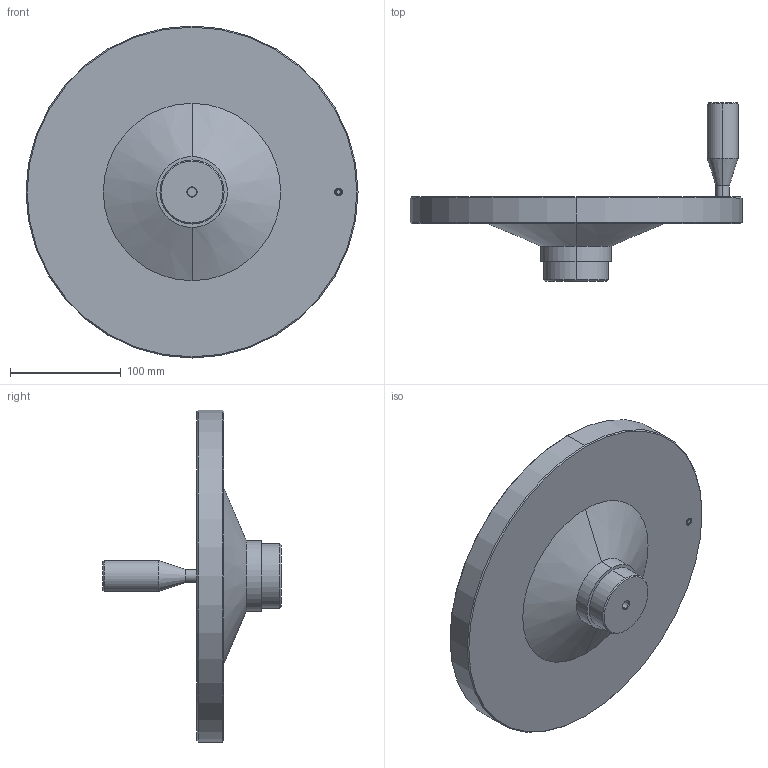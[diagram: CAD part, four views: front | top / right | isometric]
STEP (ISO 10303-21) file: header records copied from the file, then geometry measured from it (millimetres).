
FILE_DESCRIPTION (( 'STEP AP203' ), '1' );
FILE_NAME ('77640.W0300.step', '2019-08-13T15:13:55', ( '' ), ( '' ), 'SwSTEP 2.0', 'SolidWorks 2017', '' );
FILE_SCHEMA (( 'CONFIG_CONTROL_DESIGN' ));
Length unit declared in the file: millimetre
Products named in the file (3): Part2_77640.W0300; 77640.W0300; Part1_77640.W0300
Assembly tree (2 placements, depth 2):
  77640.W0300
    Part1_77640.W0300
    Part2_77640.W0300
Bounding box: 300 x 161 x 300 mm (x, y, z)
Volume: 1344286.7 mm3; surface area: 187774.7 mm2
Topology: 2 solids, 2 shells, 59 faces, 116 edges, 68 vertices
Faces by surface type: cone 24, cylinder 24, plane 11
Entity records: 1845 total; most frequent: DIRECTION 308, CARTESIAN_POINT 276, ORIENTED_EDGE 232, AXIS2_PLACEMENT_3D 130, EDGE_CURVE 116, VERTEX_POINT 68, EDGE_LOOP 68, CIRCLE 66
